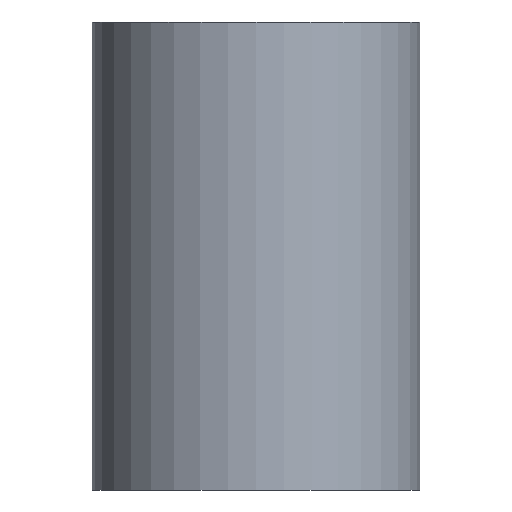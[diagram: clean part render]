
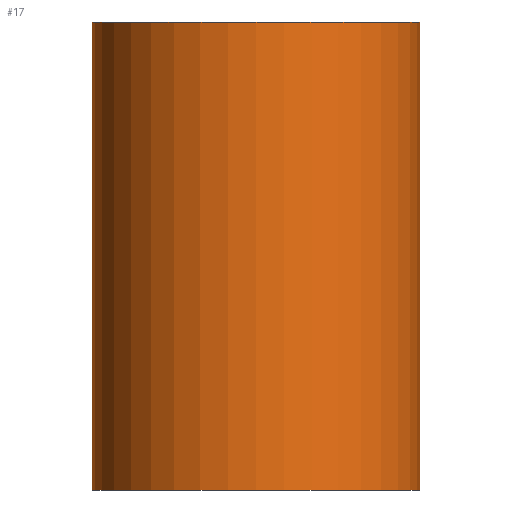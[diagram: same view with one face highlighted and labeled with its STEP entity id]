
A CAD part, front view. The second image highlights one B-rep face of the part: STEP entity #17.
In plain terms, the highlighted cylindrical face has radius 2.1 mm (diameter 4.2 mm), a full revolution.
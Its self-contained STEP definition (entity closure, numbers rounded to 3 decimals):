
#17 = ADVANCED_FACE('',(#18),#31,.T.);
#18 = FACE_BOUND('',#19,.T.);
#19 = EDGE_LOOP('',(#20,#54,#77,#104));
#20 = ORIENTED_EDGE('',*,*,#21,.F.);
#21 = EDGE_CURVE('',#22,#22,#24,.T.);
#22 = VERTEX_POINT('',#23);
#23 = CARTESIAN_POINT('',(2.1,0.,0.));
#24 = SURFACE_CURVE('',#25,(#30,#42),.PCURVE_S1.);
#25 = CIRCLE('',#26,2.1);
#26 = AXIS2_PLACEMENT_3D('',#27,#28,#29);
#27 = CARTESIAN_POINT('',(0.,0.,0.));
#28 = DIRECTION('',(0.,0.,1.));
#29 = DIRECTION('',(1.,0.,-0.));
#30 = PCURVE('',#31,#36);
#31 = CYLINDRICAL_SURFACE('',#32,2.1);
#32 = AXIS2_PLACEMENT_3D('',#33,#34,#35);
#33 = CARTESIAN_POINT('',(0.,0.,-6.));
#34 = DIRECTION('',(0.,0.,1.));
#35 = DIRECTION('',(1.,0.,-0.));
#36 = DEFINITIONAL_REPRESENTATION('',(#37),#41);
#37 = LINE('',#38,#39);
#38 = CARTESIAN_POINT('',(0.,6.));
#39 = VECTOR('',#40,1.);
#40 = DIRECTION('',(1.,0.));
#41 = ( GEOMETRIC_REPRESENTATION_CONTEXT(2) 
PARAMETRIC_REPRESENTATION_CONTEXT() REPRESENTATION_CONTEXT('2D SPACE',''
  ) );
#42 = PCURVE('',#43,#48);
#43 = PLANE('',#44);
#44 = AXIS2_PLACEMENT_3D('',#45,#46,#47);
#45 = CARTESIAN_POINT('',(0.,0.,0.));
#46 = DIRECTION('',(0.,0.,1.));
#47 = DIRECTION('',(1.,0.,-0.));
#48 = DEFINITIONAL_REPRESENTATION('',(#49),#53);
#49 = CIRCLE('',#50,2.1);
#50 = AXIS2_PLACEMENT_2D('',#51,#52);
#51 = CARTESIAN_POINT('',(0.,0.));
#52 = DIRECTION('',(1.,0.));
#53 = ( GEOMETRIC_REPRESENTATION_CONTEXT(2) 
PARAMETRIC_REPRESENTATION_CONTEXT() REPRESENTATION_CONTEXT('2D SPACE',''
  ) );
#54 = ORIENTED_EDGE('',*,*,#55,.F.);
#55 = EDGE_CURVE('',#56,#22,#58,.T.);
#56 = VERTEX_POINT('',#57);
#57 = CARTESIAN_POINT('',(2.1,0.,-6.));
#58 = SEAM_CURVE('',#59,(#63,#70),.PCURVE_S1.);
#59 = LINE('',#60,#61);
#60 = CARTESIAN_POINT('',(2.1,0.,-6.));
#61 = VECTOR('',#62,1.);
#62 = DIRECTION('',(0.,0.,1.));
#63 = PCURVE('',#31,#64);
#64 = DEFINITIONAL_REPRESENTATION('',(#65),#69);
#65 = LINE('',#66,#67);
#66 = CARTESIAN_POINT('',(6.283,-0.));
#67 = VECTOR('',#68,1.);
#68 = DIRECTION('',(0.,1.));
#69 = ( GEOMETRIC_REPRESENTATION_CONTEXT(2) 
PARAMETRIC_REPRESENTATION_CONTEXT() REPRESENTATION_CONTEXT('2D SPACE',''
  ) );
#70 = PCURVE('',#31,#71);
#71 = DEFINITIONAL_REPRESENTATION('',(#72),#76);
#72 = LINE('',#73,#74);
#73 = CARTESIAN_POINT('',(0.,-0.));
#74 = VECTOR('',#75,1.);
#75 = DIRECTION('',(0.,1.));
#76 = ( GEOMETRIC_REPRESENTATION_CONTEXT(2) 
PARAMETRIC_REPRESENTATION_CONTEXT() REPRESENTATION_CONTEXT('2D SPACE',''
  ) );
#77 = ORIENTED_EDGE('',*,*,#78,.T.);
#78 = EDGE_CURVE('',#56,#56,#79,.T.);
#79 = SURFACE_CURVE('',#80,(#85,#92),.PCURVE_S1.);
#80 = CIRCLE('',#81,2.1);
#81 = AXIS2_PLACEMENT_3D('',#82,#83,#84);
#82 = CARTESIAN_POINT('',(0.,0.,-6.));
#83 = DIRECTION('',(0.,0.,1.));
#84 = DIRECTION('',(1.,0.,-0.));
#85 = PCURVE('',#31,#86);
#86 = DEFINITIONAL_REPRESENTATION('',(#87),#91);
#87 = LINE('',#88,#89);
#88 = CARTESIAN_POINT('',(0.,0.));
#89 = VECTOR('',#90,1.);
#90 = DIRECTION('',(1.,0.));
#91 = ( GEOMETRIC_REPRESENTATION_CONTEXT(2) 
PARAMETRIC_REPRESENTATION_CONTEXT() REPRESENTATION_CONTEXT('2D SPACE',''
  ) );
#92 = PCURVE('',#93,#98);
#93 = PLANE('',#94);
#94 = AXIS2_PLACEMENT_3D('',#95,#96,#97);
#95 = CARTESIAN_POINT('',(0.,0.,-6.));
#96 = DIRECTION('',(0.,0.,1.));
#97 = DIRECTION('',(1.,0.,-0.));
#98 = DEFINITIONAL_REPRESENTATION('',(#99),#103);
#99 = CIRCLE('',#100,2.1);
#100 = AXIS2_PLACEMENT_2D('',#101,#102);
#101 = CARTESIAN_POINT('',(0.,0.));
#102 = DIRECTION('',(1.,0.));
#103 = ( GEOMETRIC_REPRESENTATION_CONTEXT(2) 
PARAMETRIC_REPRESENTATION_CONTEXT() REPRESENTATION_CONTEXT('2D SPACE',''
  ) );
#104 = ORIENTED_EDGE('',*,*,#55,.T.);
